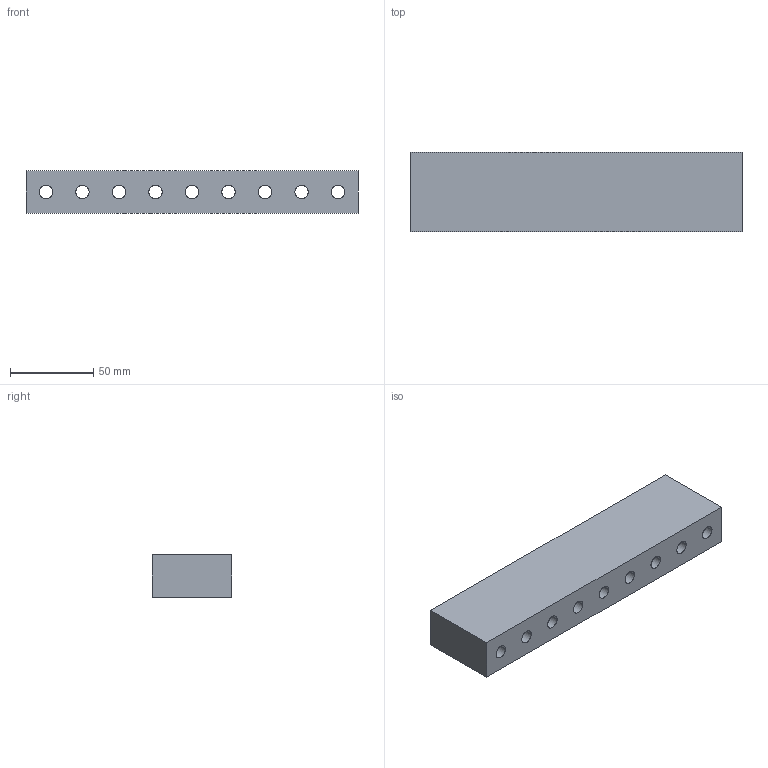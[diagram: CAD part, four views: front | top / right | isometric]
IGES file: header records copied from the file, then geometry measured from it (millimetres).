
Start section: SolidWorks IGES file using analytic representation for surfaces
Global section: file name: C:\Users\liam_\OneDrive\Documents\WORK\Work for WixRoyd\Job Files\J-00028 - Matt Davis CAD - 20191222\Wixroyd20191222\12037_v2\12037_v2_2020102_IGES\12037.W0120.igs; native system: SolidWorks 2017; preprocessor: SolidWorks 2017; author: liam_; date: 200102.205348; units: millimetre
Bounding box: 200 x 47.75 x 25.4 mm (x, y, z)
Surface area: 43843.7 mm2 (no closed solid volume)
Topology: 0 solids, 0 shells, 51 faces, 1320 edges, 1320 vertices
Faces by surface type: revolution 36, bspline 15
